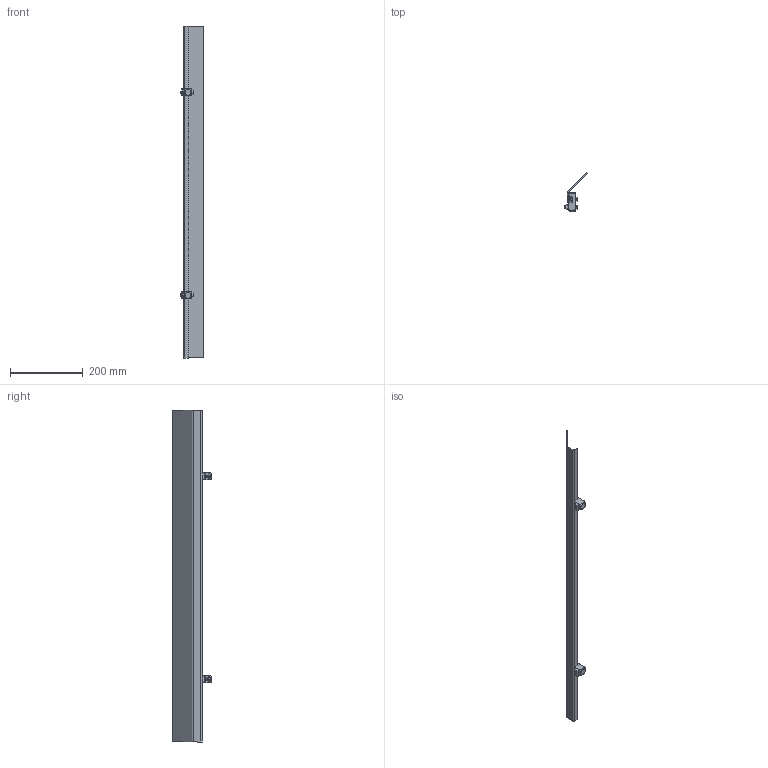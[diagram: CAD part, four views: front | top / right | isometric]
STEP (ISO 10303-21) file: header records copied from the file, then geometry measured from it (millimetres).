
FILE_DESCRIPTION (( 'STEP AP203' ), '1' );
FILE_NAME ('280803M.STEP', '2021-10-01T15:52:30', ( '' ), ( '' ), 'SwSTEP 2.0', 'SolidWorks 2019', '' );
FILE_SCHEMA (( 'CONFIG_CONTROL_DESIGN' ));
Length unit declared in the file: inch
Products named in the file (9): 807-2005; 9206XXM_920618M; 207127-LLLLL_207127-03600; Assem2^Assem1; 207128; 280803M; 639971M; 9206XXM_920630M
Assembly tree (13 placements, depth 3):
  280803M
    207127-LLLLL_207127-03600
    Assem2^Assem1
      207128
      639971M
      807-2005
      9206XXM_920618M
      9206XXM_920630M
    Assem2^Assem1
      207128
      639971M
      807-2005
      9206XXM_920618M
      9206XXM_920630M
Bounding box: 62.88 x 105.14 x 914.4 mm (x, y, z)
Volume: 233341 mm3; surface area: 227131.9 mm2
Topology: 11 solids, 11 shells, 278 faces, 626 edges, 388 vertices
Faces by surface type: plane 144, cylinder 70, cone 60, bspline 4
Entity records: 5620 total; most frequent: CARTESIAN_POINT 1145, DIRECTION 735, ORIENTED_EDGE 670, EDGE_CURVE 335, AXIS2_PLACEMENT_3D 268, VERTEX_POINT 206, VECTOR 199, LINE 199
